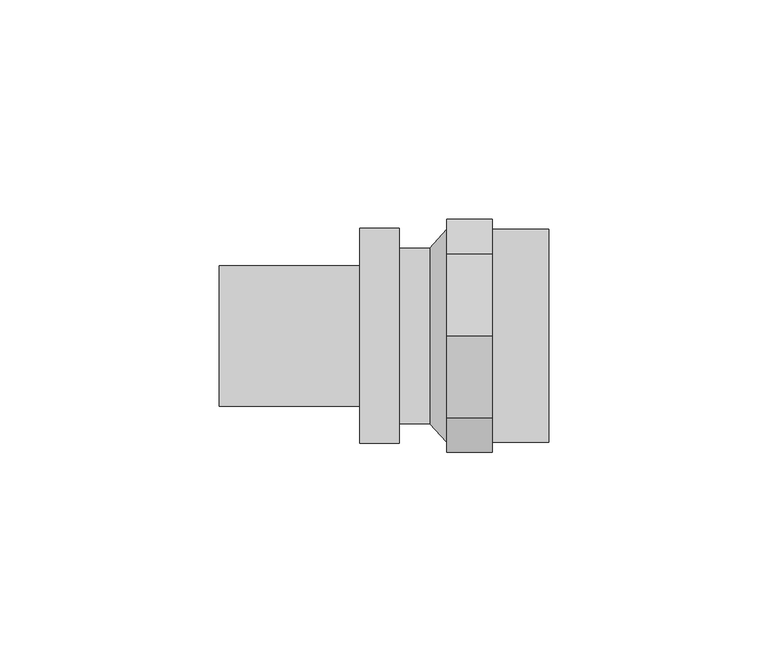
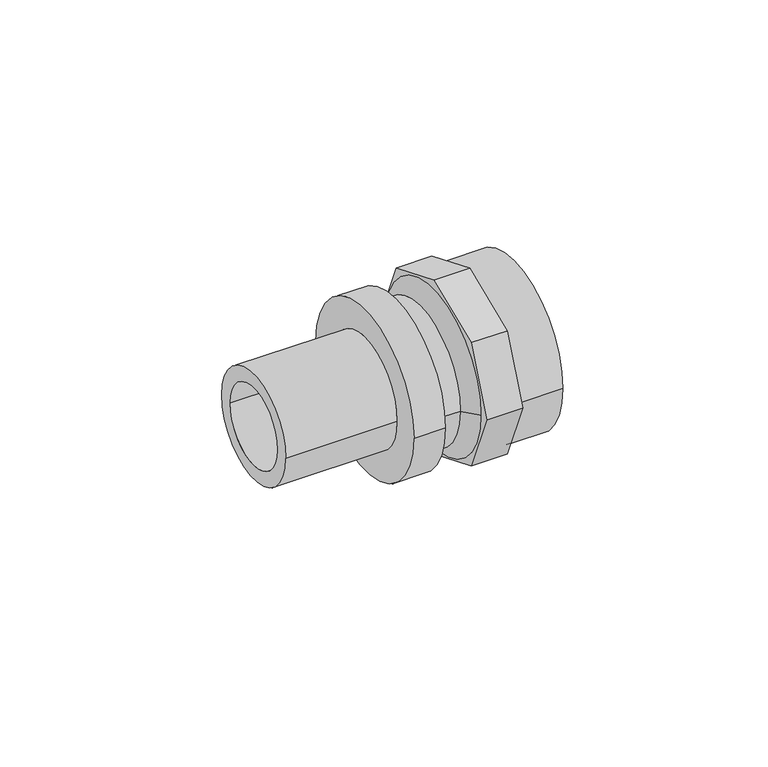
"""IFC4 building model written with IfcOpenShell, lengths in millimetres: pipe fitting geometry, REHAU_RAUTITAN_Adaptor_RX+, with internal thread : REHAU_RAUTITAN_Adaptor_RX+, with internal thread."""

import ifcopenshell
import ifcopenshell.guid

model = None  # the IFC model being written
_history = None  # IfcOwnerHistory: only IFC2X3 demands one
_inside = {}  # id of a spatial element -> (the spatial element, [elements in it])
_under = {}  # id of a project, library or spatial element -> (it, [spatial elements below it])
_declared = {}  # id of a project -> (the project, [libraries it declares])
_typed = {}  # id of a type object -> (the type object, [elements of that type])
_made_of = {}  # id of a material, layer set ... -> (it, [elements and type objects made of it])


def new_model(schema):
    """Start an empty IFC model of exactly this schema.

    Asked for "IFC4X3", IfcOpenShell would pick the latest addendum, in which some entities
    have other attributes; the version numbers below select the first issue.
    IFC2X3 requires an IfcOwnerHistory on every rooted entity: one is made here for all.
    """
    global model, _history
    if schema == "IFC4X3":
        model = ifcopenshell.file(schema_version=(4, 3, 0, 0))
    else:
        model = ifcopenshell.file(schema=schema)
    _inside.clear()
    _under.clear()
    _declared.clear()
    _typed.clear()
    _made_of.clear()
    _history = None
    if model.schema == "IFC2X3":
        org = make("IfcOrganization", Name="unknown")
        user = make(
            "IfcPersonAndOrganization",
            ThePerson=make("IfcPerson", FamilyName="unknown"),
            TheOrganization=org,
        )
        app = make(
            "IfcApplication",
            ApplicationDeveloper=org,
            Version="unknown",
            ApplicationFullName="unknown",
            ApplicationIdentifier="unknown",
        )
        _history = make(
            "IfcOwnerHistory",
            OwningUser=user,
            OwningApplication=app,
            ChangeAction="ADDED",
            CreationDate=0,
        )
    return model


def make(cls, **values):
    """One entity of the class cls with the attributes given. An attribute that is None is left unset."""
    return model.create_entity(
        cls, **{name: value for name, value in values.items() if value is not None}
    )


def rooted(cls, **values):
    """An entity with a GlobalId (a new one), such as an element, a storey or a relation."""
    return make(cls, GlobalId=ifcopenshell.guid.new(), OwnerHistory=_history, **values)


def si_unit(unit_type, name, prefix=None):
    """IfcSIUnit, for example si_unit("LENGTHUNIT", "METRE", prefix="MILLI")."""
    return make("IfcSIUnit", UnitType=unit_type, Prefix=prefix, Name=name)


def assignment(units):
    """IfcUnitAssignment: the units of a project."""
    return None if units is None else make("IfcUnitAssignment", Units=units)


def point(xyz):
    """IfcCartesianPoint."""
    return None if xyz is None else make("IfcCartesianPoint", Coordinates=xyz)


def direction(xyz):
    """IfcDirection."""
    return None if xyz is None else make("IfcDirection", DirectionRatios=xyz)


def frame(location, z_axis=None, x_axis=None):
    """IfcAxis2Placement3D, a coordinate frame: its origin and axes. An axis left out is left unset."""
    return make(
        "IfcAxis2Placement3D",
        Location=point(location),
        Axis=direction(z_axis),
        RefDirection=direction(x_axis),
    )


def frame_2d(location, x_axis=None):
    """IfcAxis2Placement2D, a coordinate frame in the plane: its origin and x axis."""
    return make(
        "IfcAxis2Placement2D", Location=point(location), RefDirection=direction(x_axis)
    )


def origin():
    """The frame at (0, 0, 0) with its axes left unset."""
    return frame((0.0, 0.0, 0.0))


def origin_2d():
    """The frame at (0, 0) in the plane with its x axis left unset."""
    return frame_2d((0.0, 0.0))


def place(relative_to, where):
    """IfcLocalPlacement: puts the frame where relative to a parent placement (None: the world)."""
    return make(
        "IfcLocalPlacement", PlacementRelTo=relative_to, RelativePlacement=where
    )


def context(
    kind, dimensions, precision=None, world=None, true_north=None, identifier=None
):
    """IfcGeometricRepresentationContext, for example the 3D "Model" context."""
    return make(
        "IfcGeometricRepresentationContext",
        ContextIdentifier=identifier,
        ContextType=kind,
        CoordinateSpaceDimension=dimensions,
        Precision=precision,
        WorldCoordinateSystem=world,
        TrueNorth=true_north,
    )


def project(units=None, contexts=None):
    """IfcProject with its units and contexts."""
    return rooted(
        "IfcProject",
        Name="project",
        RepresentationContexts=contexts,
        UnitsInContext=assignment(units),
    )


def spatial(cls, under=None, at=None, **own):
    """A site, building, storey or space (cls), placed at a placement, below another one or the project."""
    s = rooted(cls, ObjectPlacement=at, **own)
    if under is not None:
        _under.setdefault(under.id(), (under, []))[1].append(s)
    return s


def polyline(points):
    """IfcPolyline through the points."""
    return make("IfcPolyline", Points=[point(p) for p in points])


def circle_curve(where, radius):
    """IfcCircle in the frame where."""
    return make("IfcCircle", Position=where, Radius=radius)


def trimmed(basis, trim1, trim2, sense, master):
    """IfcTrimmedCurve: the piece of a basis curve between two trims."""
    return make(
        "IfcTrimmedCurve",
        BasisCurve=basis,
        Trim1=trim1,
        Trim2=trim2,
        SenseAgreement=sense,
        MasterRepresentation=master,
    )


def segment(curve, same_sense, transition):
    """IfcCompositeCurveSegment."""
    return make(
        "IfcCompositeCurveSegment",
        Transition=transition,
        SameSense=same_sense,
        ParentCurve=curve,
    )


def composite_curve(segments, self_intersect=None):
    """IfcCompositeCurve: segments joined end to end."""
    return make("IfcCompositeCurve", Segments=segments, SelfIntersect=self_intersect)


def outline(outer, holes=None, kind="AREA"):
    """IfcArbitraryClosedProfileDef: a profile drawn as a closed curve; with holes, ...WithVoids."""
    if holes is None:
        return make("IfcArbitraryClosedProfileDef", ProfileType=kind, OuterCurve=outer)
    return make(
        "IfcArbitraryProfileDefWithVoids",
        ProfileType=kind,
        OuterCurve=outer,
        InnerCurves=holes,
    )


def extrude(swept, where, along, depth):
    """IfcExtrudedAreaSolid: the profile swept, set in the frame where, extruded along a direction by depth."""
    return make(
        "IfcExtrudedAreaSolid",
        SweptArea=swept,
        Position=where,
        ExtrudedDirection=direction(along),
        Depth=depth,
    )


def shape(context_of_items, identifier, shape_type, items):
    """IfcShapeRepresentation: the items that make up one representation, for example the "Body"."""
    return make(
        "IfcShapeRepresentation",
        ContextOfItems=context_of_items,
        RepresentationIdentifier=identifier,
        RepresentationType=shape_type,
        Items=items,
    )


def source(mapping_origin, context_of_items, identifier, shape_type, items):
    """IfcRepresentationMap: a shape defined once, which mapped items show again and again."""
    return make(
        "IfcRepresentationMap",
        MappingOrigin=mapping_origin,
        MappedRepresentation=shape(context_of_items, identifier, shape_type, items),
    )


def transform(
    local_origin,
    x_axis=None,
    y_axis=None,
    z_axis=None,
    scale=None,
    scale2=None,
    scale3=None,
    uniform=True,
):
    """IfcCartesianTransformationOperator3D, or its non-uniform kind. x_axis, y_axis, z_axis: its Axis1, 2, 3."""
    if uniform:
        return make(
            "IfcCartesianTransformationOperator3D",
            Axis1=direction(x_axis),
            Axis2=direction(y_axis),
            LocalOrigin=point(local_origin),
            Scale=scale,
            Axis3=direction(z_axis),
        )
    return make(
        "IfcCartesianTransformationOperator3DnonUniform",
        Axis1=direction(x_axis),
        Axis2=direction(y_axis),
        LocalOrigin=point(local_origin),
        Scale=scale,
        Axis3=direction(z_axis),
        Scale2=scale2,
        Scale3=scale3,
    )


def mapped(mapping_source, mapping_target):
    """IfcMappedItem: shows the shape of a source again, moved by a transform."""
    return make(
        "IfcMappedItem", MappingSource=mapping_source, MappingTarget=mapping_target
    )


def made_of(thing, what):
    """Note that an element or type object is made of a material, layer set ...; save() writes the relation."""
    if what is not None:
        _made_of.setdefault(what.id(), (what, []))[1].append(thing)
    return thing


def element(
    cls,
    number,
    at=None,
    inside=None,
    cuts=None,
    type_object=None,
    material=None,
    context=None,
    identifier="Body",
    shape_type=None,
    held_by="IfcProductDefinitionShape",
    body=None,
    shapes=None,
    **own,
):
    """One element of the class cls, such as IfcWall. Its Tag is "e" and its number.

    at: its placement. inside: the storey or other place that contains it. cuts: it is an
    opening in that element (IfcRelVoidsElement). A single representation is given by context,
    identifier, shape_type and body (its items); several are given by shapes. held_by: the class
    of the entity that holds the representations. save() writes the other relations.
    """
    e = rooted(cls, Tag="e%d" % number, ObjectPlacement=at, **own)
    if body is not None:
        shapes = [shape(context, identifier, shape_type, body)]
    if shapes is not None:
        e.Representation = make(held_by, Representations=shapes)
    if inside is not None:
        _inside.setdefault(inside.id(), (inside, []))[1].append(e)
    if cuts is not None:
        rooted(
            "IfcRelVoidsElement", RelatingBuildingElement=cuts, RelatedOpeningElement=e
        )
    if type_object is not None:
        _typed.setdefault(type_object.id(), (type_object, []))[1].append(e)
    return made_of(e, material)


def aggregate(whole, parts):
    """IfcRelAggregates: a whole, such as a stair, and the parts it consists of."""
    return rooted("IfcRelAggregates", RelatingObject=whole, RelatedObjects=parts)


def save(model, path):
    """Write the relations noted so far, then the file.

    IfcRelAggregates (storeys below a building ...), IfcRelContainedInSpatialStructure (elements
    in a storey), IfcRelDefinesByType, IfcRelAssociatesMaterial and IfcRelDeclares: one each for
    every whole, place, type object, material and project.
    """
    for whole, parts in _under.values():
        aggregate(whole, parts)
    for where, things in _inside.values():
        rooted(
            "IfcRelContainedInSpatialStructure",
            RelatedElements=things,
            RelatingStructure=where,
        )
    for kind, things in _typed.values():
        rooted("IfcRelDefinesByType", RelatedObjects=things, RelatingType=kind)
    for what, things in _made_of.values():
        rooted("IfcRelAssociatesMaterial", RelatedObjects=things, RelatingMaterial=what)
    for by, libraries in _declared.values():
        rooted("IfcRelDeclares", RelatingContext=by, RelatedDefinitions=libraries)
    model.write(path)


def plane_surface(at):
    """IfcPlane: the flat surface through the origin of the frame at, square to its z axis."""
    return make("IfcPlane", Position=at)


def cylinder_surface(at, radius):
    """IfcCylindricalSurface: all points at the distance radius from the z axis of the frame at."""
    return make("IfcCylindricalSurface", Position=at, Radius=radius)


def revolved_surface(curve, axis_point, axis_direction):
    """IfcSurfaceOfRevolution: the curve turned about the line through axis_point along axis_direction."""
    return make(
        "IfcSurfaceOfRevolution",
        SweptCurve=make("IfcArbitraryOpenProfileDef", ProfileType="CURVE", Curve=curve),
        AxisPosition=make("IfcAxis1Placement", Location=point(axis_point), Axis=direction(axis_direction)),
    )


def advanced_brep(points, edges, surfaces, faces):
    """IfcAdvancedBrep: a solid bounded by faces that lie on surfaces and meet in shared edges.

    An edge is (start, end): straight between two places in points (the first is 0);
    or (start, end, curve); or (start, end, curve, False) where it runs against its curve.
    A face is (place in surfaces, loops), or (place, loops, False) where it looks against
    its surface's normal. A loop lists edges by number (the first is 1), with a minus sign
    where the edge is run from its end to its start. The first loop is the outer one.
    """
    corners = [point(p) for p in points]
    vertices = [make("IfcVertexPoint", VertexGeometry=c) for c in corners]
    made = []
    for start, end, *more in edges:
        made.append(
            make(
                "IfcEdgeCurve",
                EdgeStart=vertices[start],
                EdgeEnd=vertices[end],
                EdgeGeometry=more[0] if more else make("IfcPolyline", Points=[corners[start], corners[end]]),
                SameSense=more[1] if len(more) > 1 else True,
            )
        )
    hull = []
    for where, loops, *sense in faces:
        bounds = []
        for j, loop in enumerate(loops):
            ring = [make("IfcOrientedEdge", EdgeElement=made[abs(k) - 1], Orientation=k > 0) for k in loop]
            bounds.append(
                make(
                    "IfcFaceOuterBound" if j == 0 else "IfcFaceBound",
                    Bound=make("IfcEdgeLoop", EdgeList=ring),
                    Orientation=True,
                )
            )
        hull.append(make("IfcAdvancedFace", Bounds=bounds, FaceSurface=surfaces[where], SameSense=sense[0] if sense else True))
    return make("IfcAdvancedBrep", Outer=make("IfcClosedShell", CfsFaces=hull))


def pipe_fitting_3d571746(model_context):
    return source(origin(), model_context, "Body", "SolidModel", [
        extrude(outline(polyline([(-18.7514882, 18.7514882), (0.0, 26.5186089), (18.7514882, 18.7514882), (26.5186089, 0.0), (18.7514882, -18.7514882), (0.0, -26.5186089), (-18.7514882, -18.7514882), (-26.5186089, 0.0), (-18.7514882, 18.7514882)]), holes=[composite_curve([segment(trimmed(circle_curve(origin_2d(), 9.5), [point((-9.5, 0.0))], [point((9.5, 0.0))], True, "CARTESIAN"), True, "CONTINUOUS"), segment(trimmed(circle_curve(origin_2d(), 9.5), [point((9.5, 0.0))], [point((-9.5, 0.0))], True, "CARTESIAN"), True, "CONTINUOUS")], self_intersect=False)]), frame((-5.155, 0.0, 0.0), z_axis=(1.0, 0.0, 0.0), x_axis=(0.0, 1.0, 0.0)), (0.0, 0.0, 1.0), 10.31),
        extrude(outline(composite_curve([segment(trimmed(circle_curve(origin_2d(), 24.25), [point((-24.25, 0.0))], [point((24.25, 0.0))], False, "CARTESIAN"), True, "CONTINUOUS"), segment(trimmed(circle_curve(origin_2d(), 24.25), [point((24.25, 0.0))], [point((-24.25, 0.0))], False, "CARTESIAN"), True, "CONTINUOUS")], self_intersect=False), holes=[composite_curve([segment(trimmed(circle_curve(origin_2d(), 21.05), [point((-21.05, 0.0))], [point((21.05, 0.0))], True, "CARTESIAN"), True, "CONTINUOUS"), segment(trimmed(circle_curve(origin_2d(), 21.05), [point((21.05, 0.0))], [point((-21.05, 0.0))], True, "CARTESIAN"), True, "CONTINUOUS")], self_intersect=False)]), frame((5.155, 0.0, 0.0), z_axis=(1.0, 0.0, 0.0), x_axis=(0.0, 1.0, 0.0)), (0.0, 0.0, 1.0), 12.865),
        advanced_brep(
        [(-9.06, 20.0, 0.0), (-9.06, -20.0, 0.0), (-15.98, -20.0, 0.0), (-15.98, 20.0, 0.0), (-5.16, 24.25, 0.0), (-5.16, -24.25, 0.0), (-9.06, 16.39, 0.0), (-9.06, -16.39, 0.0), (-5.16, -21.05, 0.0), (-5.16, 21.05, 0.0), (-56.98, 11.75, 0.0), (-56.98, -11.75, 0.0), (-15.98, -11.75, 0.0), (-15.98, 11.75, 0.0), (-24.98, 16.0, 0.0), (-24.98, -16.0, 0.0), (-56.98, -16.0, 0.0), (-56.98, 16.0, 0.0), (-15.98, 24.5, 0.0), (-15.98, -24.5, 0.0), (-24.98, -24.5, 0.0), (-24.98, 24.5, 0.0)],
        [
            (0, 1, circle_curve(frame((-9.06, 0.0, 0.0), z_axis=(-1.0, 0.0, 0.0), x_axis=(0.0, -1.0, 0.0)), 20.0)),
            (1, 2),
            (2, 3, circle_curve(frame((-15.98, 0.0, 0.0), z_axis=(1.0, 0.0, 0.0), x_axis=(0.0, -1.0, 0.0)), 20.0)),
            (3, 0),
            (4, 5, circle_curve(frame((-5.16, 0.0, 0.0), z_axis=(-1.0, 0.0, 0.0), x_axis=(0.0, -1.0, 0.0)), 24.25)),
            (5, 1),
            (0, 4),
            (6, 7, circle_curve(frame((-9.06, 0.0, 0.0), z_axis=(-1.0, 0.0, 0.0), x_axis=(0.0, -1.0, 0.0)), 16.39)),
            (7, 8),
            (8, 9, circle_curve(frame((-5.16, 0.0, 0.0), z_axis=(1.0, 0.0, 0.0), x_axis=(0.0, -1.0, 0.0)), 21.05)),
            (9, 6),
            (10, 11, circle_curve(frame((-56.98, 0.0, 0.0), z_axis=(-1.0, 0.0, 0.0), x_axis=(0.0, -1.0, 0.0)), 11.75)),
            (11, 12),
            (12, 13, circle_curve(frame((-15.98, 0.0, 0.0), z_axis=(1.0, 0.0, 0.0), x_axis=(0.0, -1.0, 0.0)), 11.75)),
            (13, 10),
            (14, 15, circle_curve(frame((-24.98, 0.0, 0.0), z_axis=(-1.0, 0.0, 0.0), x_axis=(0.0, -1.0, 0.0)), 16.0)),
            (15, 16),
            (16, 17, circle_curve(frame((-56.98, 0.0, 0.0), z_axis=(1.0, 0.0, 0.0), x_axis=(0.0, -1.0, 0.0)), 16.0)),
            (17, 14),
            (18, 19, circle_curve(frame((-15.98, 0.0, 0.0), z_axis=(-1.0, 0.0, 0.0), x_axis=(0.0, -1.0, 0.0)), 24.5)),
            (19, 20),
            (20, 21, circle_curve(frame((-24.98, 0.0, 0.0), z_axis=(1.0, 0.0, 0.0), x_axis=(0.0, -1.0, 0.0)), 24.5)),
            (21, 18),
            (18, 19, circle_curve(frame((-15.98, 0.0, 0.0), z_axis=(1.0, 0.0, 0.0), x_axis=(0.0, 1.0, 0.0)), 24.5)),
            (2, 3, circle_curve(frame((-15.98, 0.0, 0.0), z_axis=(-1.0, 0.0, 0.0), x_axis=(0.0, 1.0, 0.0)), 20.0)),
            (1, 0, circle_curve(frame((-9.06, 0.0, 0.0), z_axis=(-1.0, 0.0, 0.0), x_axis=(0.0, 1.0, 0.0)), 20.0)),
            (5, 4, circle_curve(frame((-5.16, 0.0, 0.0), z_axis=(-1.0, 0.0, 0.0), x_axis=(0.0, 1.0, 0.0)), 24.25)),
            (7, 6, circle_curve(frame((-9.06, 0.0, 0.0), z_axis=(-1.0, 0.0, 0.0), x_axis=(0.0, 1.0, 0.0)), 16.39)),
            (9, 8, circle_curve(frame((-5.16, 0.0, 0.0), z_axis=(1.0, 0.0, 0.0), x_axis=(0.0, 1.0, 0.0)), 21.05)),
            (11, 10, circle_curve(frame((-56.98, 0.0, 0.0), z_axis=(-1.0, 0.0, 0.0), x_axis=(0.0, 1.0, 0.0)), 11.75)),
            (13, 12, circle_curve(frame((-15.98, 0.0, 0.0), z_axis=(1.0, 0.0, 0.0), x_axis=(0.0, 1.0, 0.0)), 11.75)),
            (16, 17, circle_curve(frame((-56.98, 0.0, 0.0), z_axis=(-1.0, 0.0, 0.0), x_axis=(0.0, 1.0, 0.0)), 16.0)),
            (15, 14, circle_curve(frame((-24.98, 0.0, 0.0), z_axis=(-1.0, 0.0, 0.0), x_axis=(0.0, 1.0, 0.0)), 16.0)),
            (20, 21, circle_curve(frame((-24.98, 0.0, 0.0), z_axis=(-1.0, 0.0, 0.0), x_axis=(0.0, 1.0, 0.0)), 24.5)),
            (12, 7),
            (6, 13),
        ],
        [
            cylinder_surface(frame((0.0, 0.0, 0.0), z_axis=(1.0, 0.0, 0.0), x_axis=(0.0, -1.0, 0.0)), 20.0),
            revolved_surface(polyline([(-9.06, -20.0, 0.0), (-5.16, -24.25, 0.0)]), (0.0, 0.0, 0.0), (1.0, 0.0, 0.0)),
            revolved_surface(polyline([(-5.16, -21.05, 0.0), (-9.06, -16.39, 0.0)]), (0.0, 0.0, 0.0), (1.0, 0.0, 0.0)),
            revolved_surface(polyline([(-15.98, -11.75, 0.0), (-56.98, -11.75, 0.0)]), (0.0, 0.0, 0.0), (1.0, 0.0, 0.0)),
            cylinder_surface(frame((0.0, 0.0, 0.0), z_axis=(1.0, 0.0, 0.0), x_axis=(0.0, -1.0, 0.0)), 16.0),
            cylinder_surface(frame((0.0, 0.0, 0.0), z_axis=(1.0, 0.0, 0.0), x_axis=(0.0, -1.0, 0.0)), 24.5),
            plane_surface(frame((-15.98, 0.0, 0.0), z_axis=(1.0, 0.0, 0.0), x_axis=(0.0, 1.0, 0.0))),
            cylinder_surface(frame((0.0, 0.0, 0.0), z_axis=(1.0, 0.0, 0.0), x_axis=(0.0, 1.0, 0.0)), 20.0),
            revolved_surface(polyline([(-9.06, 20.0, 0.0), (-5.16, 24.25, 0.0)]), (0.0, 0.0, 0.0), (1.0, 0.0, 0.0)),
            revolved_surface(polyline([(-5.16, 21.05, 0.0), (-9.06, 16.39, 0.0)]), (0.0, 0.0, 0.0), (1.0, 0.0, 0.0)),
            revolved_surface(polyline([(-15.98, 11.75, 0.0), (-56.98, 11.75, 0.0)]), (0.0, 0.0, 0.0), (1.0, 0.0, 0.0)),
            plane_surface(frame((-56.98, 0.0, 0.0), z_axis=(-1.0, 0.0, 0.0), x_axis=(0.0, 1.0, 0.0))),
            cylinder_surface(frame((0.0, 0.0, 0.0), z_axis=(1.0, 0.0, 0.0), x_axis=(0.0, 1.0, 0.0)), 16.0),
            plane_surface(frame((-24.98, 0.0, 0.0), z_axis=(-1.0, 0.0, 0.0), x_axis=(0.0, 1.0, 0.0))),
            cylinder_surface(frame((0.0, 0.0, 0.0), z_axis=(1.0, 0.0, 0.0), x_axis=(0.0, 1.0, 0.0)), 24.5),
            revolved_surface(polyline([(-9.06, -16.39, 0.0), (-15.98, -11.75, 0.0)]), (0.0, 0.0, 0.0), (1.0, 0.0, 0.0)),
            revolved_surface(polyline([(-9.06, 16.39, 0.0), (-15.98, 11.75, 0.0)]), (0.0, 0.0, 0.0), (1.0, 0.0, 0.0)),
            plane_surface(frame((-5.16, 0.0, 0.0), z_axis=(1.0, 0.0, 0.0), x_axis=(0.0, 1.0, 0.0))),
        ],
        [
            (0, [[1, 2, 3, 4]]),
            (1, [[5, 6, -1, 7]]),
            (2, [[8, 9, 10, 11]]),
            (3, [[12, 13, 14, 15]]),
            (4, [[16, 17, 18, 19]]),
            (5, [[20, 21, 22, 23]]),
            (6, [[24, -20], [25, -3]]),
            (7, [[26, -4, -25, -2]]),
            (8, [[27, -7, -26, -6]]),
            (9, [[28, -11, 29, -9]]),
            (10, [[30, -15, 31, -13]]),
            (11, [[32, -18], [-30, -12]]),
            (12, [[33, -19, -32, -17]]),
            (13, [[34, -22], [-33, -16]]),
            (14, [[-24, -23, -34, -21]]),
            (15, [[-14, 35, -8, 36]]),
            (16, [[-31, -36, -28, -35]]),
            (17, [[-27, -5], [-29, -10]]),
        ],
    ),
    ])


if __name__ == "__main__":
    model = new_model("IFC4")
    model_context = context("Model", 3, world=origin())
    ifc_project = project(units=[si_unit("LENGTHUNIT", "METRE", prefix="MILLI")], contexts=[model_context])
    site = spatial("IfcSite", under=ifc_project)
    building = spatial("IfcBuilding", under=site)
    placement = place(None, origin())
    pipe_fitting_shape = pipe_fitting_3d571746(model_context)
    element("IfcPipeFitting", 1, ObjectType="REHAU_RAUTITAN_Adaptor_RX+, with internal thread : REHAU_RAUTITAN_Adaptor_RX+, with internal thread", at=placement, inside=building, context=model_context, shape_type="MappedRepresentation", body=[
        mapped(pipe_fitting_shape, transform((0.0, 0.0, 0.0), x_axis=(1.0, 0.0, 0.0), y_axis=(0.0, 1.0, 0.0), z_axis=(0.0, 0.0, 1.0))),
    ])
    save(model, "model.ifc")
